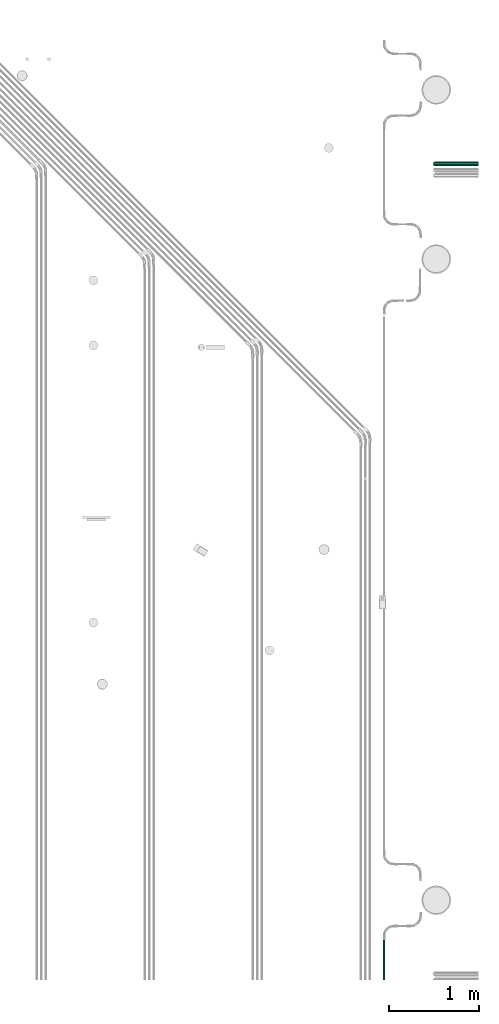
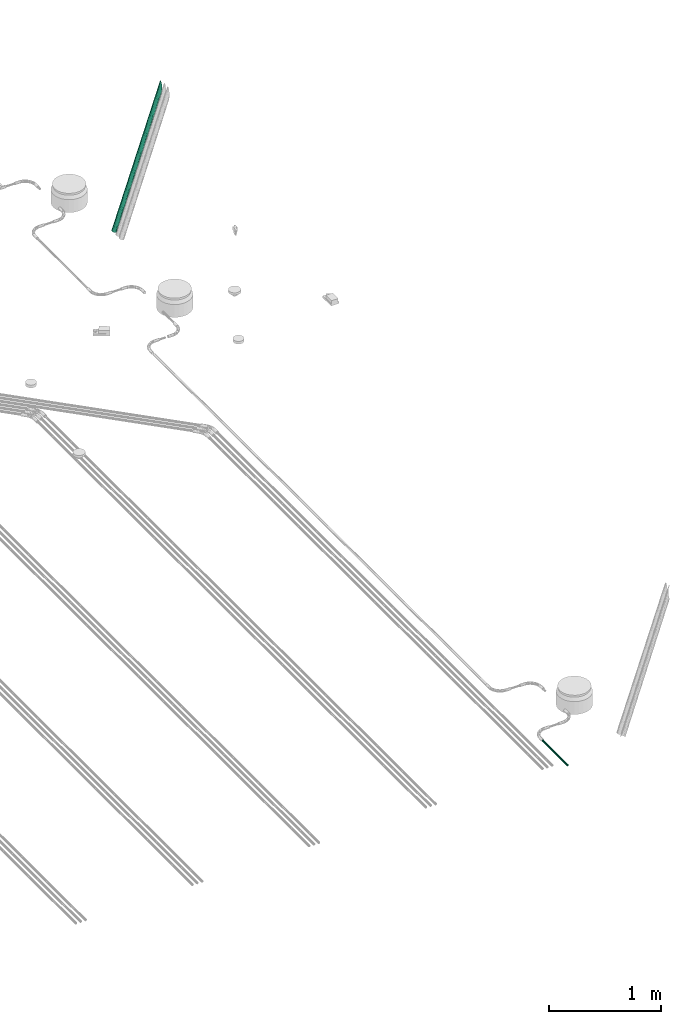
# One storey, part 47 of 51: 2 flow segments.
"""IFC2X3 building model written with IfcOpenShell, lengths in millimetres."""

from ifc_helpers import new_model, entity, si_unit, converted_unit, derived_unit, direction, frame, place, context, subcontext, project, spatial, faceted_brep, type_object, element, save


model = new_model("IFC2X3")

# Units and contexts
model_context = context("Model", 3, precision=0.01, world=frame((0.0, 4.29681676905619e-09, 0.0)), true_north=direction((4.01073788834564e-13, 1.0)))
plan_context = context("Plan", 3, precision=0.01, world=frame((0.0, 4.29681676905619e-09, 0.0)), true_north=direction((4.01073788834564e-13, 1.0)))
body_context = subcontext(model_context, "Body", "Model", "MODEL_VIEW")
ifc_project = project(units=[converted_unit("PLANEANGLEUNIT", "DEGREE", entity("IfcPositiveLengthMeasure", 0.0174532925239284), si_unit("PLANEANGLEUNIT", "RADIAN"), dimensions=[0, 0, 0, 0, 0, 0, 0]), si_unit("AREAUNIT", "SQUARE_METRE"), si_unit("LENGTHUNIT", "METRE", prefix="MILLI"), si_unit("MASSUNIT", "GRAM", prefix="KILO"), si_unit("POWERUNIT", "WATT"), si_unit("PRESSUREUNIT", "PASCAL"), si_unit("FORCEUNIT", "NEWTON", prefix="KILO"), si_unit("ELECTRICVOLTAGEUNIT", "VOLT"), si_unit("ELECTRICCURRENTUNIT", "AMPERE"), si_unit("THERMODYNAMICTEMPERATUREUNIT", "DEGREE_CELSIUS"), si_unit("TIMEUNIT", "SECOND"), si_unit("VOLUMEUNIT", "CUBIC_METRE"), derived_unit("LINEARVELOCITYUNIT", [(si_unit("LENGTHUNIT", "METRE"), 1), (si_unit("TIMEUNIT", "SECOND"), -1)]), derived_unit("VOLUMETRICFLOWRATEUNIT", [(si_unit("VOLUMEUNIT", "CUBIC_METRE"), 1), (si_unit("TIMEUNIT", "SECOND"), -1)]), derived_unit("THERMALTRANSMITTANCEUNIT", [(si_unit("POWERUNIT", "WATT"), 1), (si_unit("THERMODYNAMICTEMPERATUREUNIT", "KELVIN"), -1), (si_unit("AREAUNIT", "SQUARE_METRE"), -1)]), derived_unit("SOUNDPRESSUREUNIT", [(si_unit("PRESSUREUNIT", "PASCAL"), 1)])], contexts=[model_context, plan_context])

# Site, building, storey
site_placement = place(None, frame((0.0, -4.29681676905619e-09, 0.0), z_axis=(0.0, 0.0, 1.0), x_axis=(1.0, 0.0, 0.0)))
site = spatial("IfcSite", under=ifc_project, at=site_placement, Name="ENGM", CompositionType="ELEMENT")
building_placement = place(site_placement, frame((0.0, 4.29681676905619e-09, 0.0), z_axis=(0.0, 0.0, 1.0), x_axis=(1.0, 0.0, 0.0)))
building = spatial("IfcBuilding", under=site, at=building_placement, Name="TI", CompositionType="ELEMENT")
storey_placement = place(building_placement, frame((0.0, 0.0, 210900.0), z_axis=(0.0, 0.0, 1.0), x_axis=(1.0, 0.0, 0.0)))
storey = spatial("IfcBuildingStorey", under=building, at=storey_placement, Name="Nivå F", CompositionType="ELEMENT", Elevation=210900.0)

# Flow segments
cable_carrier_segment_type_1 = type_object("IfcCableCarrierSegmentType", Name="Trekkerør, korrugert", PredefinedType="CONDUITSEGMENT")
flow_segment_1_placement = place(storey_placement, frame((611382.66348, 688547.83675, -110.0), z_axis=(0.0, 0.0, 1.0), x_axis=(0.0, 1.0, 0.0)))
element("IfcFlowSegment", 1, at=flow_segment_1_placement, inside=storey, type_object=cable_carrier_segment_type_1, Name="Trekkerør, korrugert", context=body_context, shape_type="Brep", body=[
    faceted_brep([(452.163249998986, 7.87846202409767, -1.38918542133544), (452.163249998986, 8.0, 0.0), (897.5, 8.0, 0.0), (897.5, 7.87846202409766, -1.38918542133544), (452.163249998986, 7.51754096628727, -2.73616114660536), (897.5, 7.51754096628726, -2.73616114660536), (452.163249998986, 6.92820323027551, -4.0), (897.5, 6.92820323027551, -4.0), (452.163249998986, 6.12835554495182, -5.14230087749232), (897.5, 6.12835554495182, -5.14230087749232), (452.163249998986, 5.14230087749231, -6.12835554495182), (897.5, 5.14230087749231, -6.12835554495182), (452.163249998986, 4.0, -6.92820323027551), (897.5, 4.0, -6.92820323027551), (452.163249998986, 2.73616114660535, -7.51754096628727), (897.5, 2.73616114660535, -7.51754096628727), (452.163249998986, 1.38918542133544, -7.87846202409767), (897.5, 1.38918542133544, -7.87846202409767), (452.163249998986, -1.46957615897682e-15, -8.0), (897.5, -1.46957615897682e-15, -8.0), (452.163249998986, -1.38918542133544, -7.87846202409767), (897.5, -1.38918542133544, -7.87846202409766), (452.163249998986, -2.73616114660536, -7.51754096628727), (897.5, -2.73616114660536, -7.51754096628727), (452.163249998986, -4.0, -6.92820323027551), (897.5, -4.0, -6.92820323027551), (452.163249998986, -5.14230087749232, -6.12835554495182), (897.5, -5.14230087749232, -6.12835554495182), (452.163249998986, -6.12835554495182, -5.14230087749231), (897.5, -6.12835554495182, -5.14230087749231), (452.163249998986, -6.92820323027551, -4.0), (897.5, -6.92820323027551, -4.0), (452.163249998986, -7.51754096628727, -2.73616114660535), (897.5, -7.51754096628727, -2.73616114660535), (452.163249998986, -7.87846202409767, -1.38918542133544), (897.5, -7.87846202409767, -1.38918542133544), (452.163249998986, -8.0, 9.79717439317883e-16), (897.5, -8.0, 9.79717439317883e-16), (452.163249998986, -7.87846202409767, 1.38918542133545), (897.5, -7.87846202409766, 1.38918542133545), (452.163249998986, -7.51754096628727, 2.73616114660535), (897.5, -7.51754096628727, 2.73616114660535), (452.163249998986, -6.92820323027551, 4.0), (897.5, -6.92820323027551, 4.0), (452.163249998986, -6.12835554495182, 5.14230087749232), (897.5, -6.12835554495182, 5.14230087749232), (452.163249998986, -5.14230087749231, 6.12835554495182), (897.5, -5.14230087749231, 6.12835554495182), (452.163249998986, -4.0, 6.92820323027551), (897.5, -4.0, 6.92820323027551), (452.163249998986, -2.73616114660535, 7.51754096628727), (897.5, -2.73616114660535, 7.51754096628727), (452.163249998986, -1.38918542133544, 7.87846202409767), (897.5, -1.38918542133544, 7.87846202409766), (452.163249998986, 4.89858719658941e-16, 8.0), (897.5, 4.89858719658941e-16, 8.0), (452.163249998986, 1.38918542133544, 7.87846202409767), (897.5, 1.38918542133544, 7.87846202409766), (452.163249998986, 2.73616114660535, 7.51754096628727), (897.5, 2.73616114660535, 7.51754096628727), (452.163249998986, 4.0, 6.92820323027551), (897.5, 4.0, 6.92820323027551), (452.163249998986, 5.14230087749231, 6.12835554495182), (897.5, 5.14230087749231, 6.12835554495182), (452.163249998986, 6.12835554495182, 5.14230087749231), (897.5, 6.12835554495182, 5.14230087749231), (452.163249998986, 6.92820323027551, 4.0), (897.5, 6.92820323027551, 4.0), (452.163249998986, 7.51754096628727, 2.73616114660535), (897.5, 7.51754096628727, 2.73616114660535), (452.163249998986, 7.87846202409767, 1.38918542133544), (897.5, 7.87846202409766, 1.38918542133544), (452.163249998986, 10.0, 0.0), (452.163249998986, 9.84807753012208, -1.7364817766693), (897.5, 9.84807753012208, -1.7364817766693), (897.5, 10.0, 0.0), (452.163249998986, 9.84807753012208, 1.7364817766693), (897.5, 9.84807753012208, 1.7364817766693), (452.163249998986, 9.39692620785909, 3.42020143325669), (897.5, 9.39692620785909, 3.42020143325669), (452.163249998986, 8.66025403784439, 5.0), (897.5, 8.66025403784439, 5.0), (452.163249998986, 7.66044443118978, 6.42787609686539), (897.5, 7.66044443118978, 6.42787609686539), (452.163249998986, 6.42787609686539, 7.66044443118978), (897.5, 6.42787609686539, 7.66044443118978), (452.163249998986, 5.0, 8.66025403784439), (897.5, 5.0, 8.66025403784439), (452.163249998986, 3.42020143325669, 9.39692620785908), (897.5, 3.42020143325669, 9.39692620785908), (452.163249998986, 1.7364817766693, 9.84807753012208), (897.5, 1.7364817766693, 9.84807753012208), (452.163249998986, 6.12323399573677e-16, 10.0), (897.5, 6.12323399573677e-16, 10.0), (452.163249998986, -1.7364817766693, 9.84807753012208), (897.5, -1.7364817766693, 9.84807753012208), (452.163249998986, -3.42020143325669, 9.39692620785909), (897.5, -3.42020143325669, 9.39692620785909), (452.163249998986, -5.0, 8.66025403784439), (897.5, -5.0, 8.66025403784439), (452.163249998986, -6.42787609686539, 7.66044443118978), (897.5, -6.42787609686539, 7.66044443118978), (452.163249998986, -7.66044443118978, 6.4278760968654), (897.5, -7.66044443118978, 6.4278760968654), (452.163249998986, -8.66025403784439, 5.0), (897.5, -8.66025403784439, 5.0), (452.163249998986, -9.39692620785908, 3.42020143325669), (897.5, -9.39692620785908, 3.42020143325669), (452.163249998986, -9.84807753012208, 1.73648177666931), (897.5, -9.84807753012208, 1.73648177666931), (452.163249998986, -10.0, 1.22464679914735e-15), (897.5, -10.0, 1.22464679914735e-15), (452.163249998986, -9.84807753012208, -1.7364817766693), (897.5, -9.84807753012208, -1.7364817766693), (452.163249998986, -9.39692620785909, -3.42020143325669), (897.5, -9.39692620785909, -3.42020143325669), (452.163249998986, -8.66025403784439, -5.0), (897.5, -8.66025403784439, -5.0), (452.163249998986, -7.66044443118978, -6.42787609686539), (897.5, -7.66044443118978, -6.42787609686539), (452.163249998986, -6.4278760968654, -7.66044443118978), (897.5, -6.4278760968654, -7.66044443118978), (452.163249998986, -5.00000000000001, -8.66025403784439), (897.5, -5.0, -8.66025403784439), (452.163249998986, -3.42020143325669, -9.39692620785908), (897.5, -3.42020143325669, -9.39692620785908), (452.163249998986, -1.7364817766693, -9.84807753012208), (897.5, -1.7364817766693, -9.84807753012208), (452.163249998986, -1.83697019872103e-15, -10.0), (897.5, -1.83697019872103e-15, -10.0), (452.163249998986, 1.7364817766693, -9.84807753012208), (897.5, 1.7364817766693, -9.84807753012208), (452.163249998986, 3.42020143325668, -9.39692620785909), (897.5, 3.42020143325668, -9.39692620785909), (452.163249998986, 5.0, -8.66025403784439), (897.5, 5.0, -8.66025403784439), (452.163249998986, 6.42787609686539, -7.66044443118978), (897.5, 6.42787609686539, -7.66044443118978), (452.163249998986, 7.66044443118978, -6.4278760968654), (897.5, 7.66044443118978, -6.4278760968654), (452.163249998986, 8.66025403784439, -5.00000000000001), (897.5, 8.66025403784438, -5.0), (452.163249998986, 9.39692620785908, -3.42020143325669), (897.5, 9.39692620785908, -3.42020143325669)], [[[0, 1, 2, 3]], [[4, 0, 3, 5]], [[6, 4, 5, 7]], [[8, 6, 7, 9]], [[10, 8, 9, 11]], [[12, 10, 11, 13]], [[14, 12, 13, 15]], [[16, 14, 15, 17]], [[18, 16, 17, 19]], [[20, 18, 19, 21]], [[22, 20, 21, 23]], [[24, 22, 23, 25]], [[26, 24, 25, 27]], [[28, 26, 27, 29]], [[30, 28, 29, 31]], [[32, 30, 31, 33]], [[34, 32, 33, 35]], [[36, 34, 35, 37]], [[38, 36, 37, 39]], [[40, 38, 39, 41]], [[42, 40, 41, 43]], [[44, 42, 43, 45]], [[46, 44, 45, 47]], [[48, 46, 47, 49]], [[50, 48, 49, 51]], [[52, 50, 51, 53]], [[54, 52, 53, 55]], [[56, 54, 55, 57]], [[58, 56, 57, 59]], [[60, 58, 59, 61]], [[62, 60, 61, 63]], [[64, 62, 63, 65]], [[66, 64, 65, 67]], [[68, 66, 67, 69]], [[70, 68, 69, 71]], [[1, 70, 71, 2]], [[72, 73, 74, 75]], [[76, 72, 75, 77]], [[78, 76, 77, 79]], [[80, 78, 79, 81]], [[82, 80, 81, 83]], [[84, 82, 83, 85]], [[86, 84, 85, 87]], [[88, 86, 87, 89]], [[90, 88, 89, 91]], [[92, 90, 91, 93]], [[94, 92, 93, 95]], [[96, 94, 95, 97]], [[98, 96, 97, 99]], [[100, 98, 99, 101]], [[102, 100, 101, 103]], [[104, 102, 103, 105]], [[106, 104, 105, 107]], [[108, 106, 107, 109]], [[110, 108, 109, 111]], [[112, 110, 111, 113]], [[114, 112, 113, 115]], [[116, 114, 115, 117]], [[118, 116, 117, 119]], [[120, 118, 119, 121]], [[122, 120, 121, 123]], [[124, 122, 123, 125]], [[126, 124, 125, 127]], [[128, 126, 127, 129]], [[130, 128, 129, 131]], [[132, 130, 131, 133]], [[134, 132, 133, 135]], [[136, 134, 135, 137]], [[138, 136, 137, 139]], [[140, 138, 139, 141]], [[142, 140, 141, 143]], [[73, 142, 143, 74]], [[75, 74, 143, 141, 139, 137, 135, 133, 131, 129, 127, 125, 123, 121, 119, 117, 115, 113, 111, 109, 107, 105, 103, 101, 99, 97, 95, 93, 91, 89, 87, 85, 83, 81, 79, 77], [2, 71, 69, 67, 65, 63, 61, 59, 57, 55, 53, 51, 49, 47, 45, 43, 41, 39, 37, 35, 33, 31, 29, 27, 25, 23, 21, 19, 17, 15, 13, 11, 9, 7, 5, 3]], [[76, 78, 80, 82, 84, 86, 88, 90, 92, 94, 96, 98, 100, 102, 104, 106, 108, 110, 112, 114, 116, 118, 120, 122, 124, 126, 128, 130, 132, 134, 136, 138, 140, 142, 73, 72], [4, 6, 8, 10, 12, 14, 16, 18, 20, 22, 24, 26, 28, 30, 32, 34, 36, 38, 40, 42, 44, 46, 48, 50, 52, 54, 56, 58, 60, 62, 64, 66, 68, 70, 1, 0]]], orient=[[False], [False], [False], [False], [False], [False], [False], [False], [False], [False], [False], [False], [False], [False], [False], [False], [False], [False], [False], [False], [False], [False], [False], [False], [False], [False], [False], [False], [False], [False], [False], [False], [False], [False], [False], [False], [False], [False], [False], [False], [False], [False], [False], [False], [False], [False], [False], [False], [False], [False], [False], [False], [False], [False], [False], [False], [False], [False], [False], [False], [False], [False], [False], [False], [False], [False], [False], [False], [False], [False], [False], [False], [False, False], [False, False]]),
])
cable_carrier_segment_type_2 = type_object("IfcCableCarrierSegmentType", Name="Trekkerør, glatt", PredefinedType="CONDUITSEGMENT")
flow_segment_2_placement = place(storey_placement, frame((611951.30791, 698065.0002, 0.0), z_axis=(-0.945719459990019, 0.0, 0.324984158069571), x_axis=(0.324984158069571, 0.0, 0.945719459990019)))
element("IfcFlowSegment", 2, at=flow_segment_2_placement, inside=storey, type_object=cable_carrier_segment_type_2, Name="Trekkerør, glatt", context=body_context, shape_type="Brep", body=[
    faceted_brep([(1472.96973149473, 23.0, 0.0), (1461.34726773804, 22.6505783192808, -3.9939080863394), (0.0, 22.6505783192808, -3.9939080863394), (0.0, 23.0, 0.0), (1450.07794666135, 21.6129302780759, -7.8664632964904), (0.0, 21.6129302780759, -7.8664632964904), (1439.50418088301, 19.9185842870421, -11.5), (0.0, 19.9185842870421, -11.5), (1429.94724892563, 17.6190221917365, -14.7841150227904), (0.0, 17.6190221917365, -14.7841150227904), (1421.69753333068, 14.7841150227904, -17.6190221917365), (0.0, 14.7841150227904, -17.6190221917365), (1415.00569753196, 11.5, -19.9185842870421), (0.0, 11.5, -19.9185842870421), (1410.07506957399, 7.86646329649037, -21.6129302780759), (0.0, 7.86646329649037, -21.6129302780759), (1407.05546409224, 3.99390808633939, -22.6505783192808), (0.0, 3.99390808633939, -22.6505783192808), (1406.03863027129, -4.22503145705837e-15, -23.0), (0.0, -4.22503145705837e-15, -23.0), (1407.05546409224, -3.9939080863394, -22.6505783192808), (0.0, -3.9939080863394, -22.6505783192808), (1410.07506957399, -7.8664632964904, -21.6129302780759), (0.0, -7.8664632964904, -21.6129302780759), (1415.00569753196, -11.5, -19.9185842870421), (0.0, -11.5, -19.9185842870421), (1421.69753333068, -14.7841150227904, -17.6190221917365), (0.0, -14.7841150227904, -17.6190221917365), (1429.94724892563, -17.6190221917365, -14.7841150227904), (0.0, -17.6190221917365, -14.7841150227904), (1439.50418088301, -19.9185842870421, -11.5), (0.0, -19.9185842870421, -11.5), (1450.07794666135, -21.6129302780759, -7.86646329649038), (0.0, -21.6129302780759, -7.86646329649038), (1461.34726773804, -22.6505783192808, -3.99390808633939), (0.0, -22.6505783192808, -3.99390808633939), (1472.96973149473, -23.0, 2.81668763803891e-15), (0.0, -23.0, 2.81668763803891e-15), (1484.59219525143, -22.6505783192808, 3.99390808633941), (0.0, -22.6505783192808, 3.99390808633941), (1495.86151632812, -21.6129302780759, 7.86646329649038), (0.0, -21.6129302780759, 7.86646329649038), (1506.43528210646, -19.9185842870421, 11.5), (0.0, -19.9185842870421, 11.5), (1515.99221406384, -17.6190221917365, 14.7841150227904), (0.0, -17.6190221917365, 14.7841150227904), (1524.24192965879, -14.7841150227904, 17.6190221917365), (0.0, -14.7841150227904, 17.6190221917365), (1530.9337654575, -11.5, 19.9185842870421), (0.0, -11.5, 19.9185842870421), (1535.86439341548, -7.86646329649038, 21.6129302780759), (0.0, -7.86646329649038, 21.6129302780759), (1538.88399889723, -3.9939080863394, 22.6505783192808), (0.0, -3.9939080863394, 22.6505783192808), (1539.90083271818, 1.40834381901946e-15, 23.0), (0.0, 1.40834381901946e-15, 23.0), (1538.88399889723, 3.9939080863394, 22.6505783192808), (0.0, 3.9939080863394, 22.6505783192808), (1535.86439341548, 7.86646329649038, 21.6129302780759), (0.0, 7.86646329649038, 21.6129302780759), (1530.9337654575, 11.5, 19.9185842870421), (0.0, 11.5, 19.9185842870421), (1524.24192965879, 14.7841150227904, 17.6190221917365), (0.0, 14.7841150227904, 17.6190221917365), (1515.99221406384, 17.6190221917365, 14.7841150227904), (0.0, 17.6190221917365, 14.7841150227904), (1506.43528210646, 19.9185842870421, 11.5), (0.0, 19.9185842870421, 11.5), (1495.86151632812, 21.6129302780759, 7.86646329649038), (0.0, 21.6129302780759, 7.86646329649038), (1484.59219525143, 22.6505783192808, 3.9939080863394), (0.0, 22.6505783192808, 3.9939080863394), (1460.33661871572, 24.6201938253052, -4.34120444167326), (1472.96973149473, 25.0, 0.0), (0.0, 25.0, 0.0), (0.0, 24.6201938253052, -4.34120444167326), (1485.60284427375, 24.6201938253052, 4.34120444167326), (0.0, 24.6201938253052, 4.34120444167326), (1497.85210631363, 23.4923155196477, 8.55050358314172), (0.0, 23.4923155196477, 8.55050358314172), (1509.34532998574, 21.650635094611, 12.5), (0.0, 21.650635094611, 12.5), (1519.73329950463, 19.1511110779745, 16.0696902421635), (0.0, 19.1511110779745, 16.0696902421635), (1528.70038167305, 16.0696902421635, 19.1511110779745), (0.0, 16.0696902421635, 19.1511110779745), (1535.97411623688, 12.5, 21.650635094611), (0.0, 12.5, 21.650635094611), (1541.33349445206, 8.55050358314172, 23.4923155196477), (0.0, 8.55050358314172, 23.4923155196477), (1544.61567432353, 4.34120444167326, 24.6201938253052), (0.0, 4.34120444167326, 24.6201938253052), (1545.72092847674, 1.53080849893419e-15, 25.0), (0.0, 1.53080849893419e-15, 25.0), (1544.61567432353, -4.34120444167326, 24.6201938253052), (0.0, -4.34120444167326, 24.6201938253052), (1541.33349445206, -8.55050358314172, 23.4923155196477), (0.0, -8.55050358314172, 23.4923155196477), (1535.97411623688, -12.5, 21.650635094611), (0.0, -12.5, 21.650635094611), (1528.70038167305, -16.0696902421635, 19.1511110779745), (0.0, -16.0696902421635, 19.1511110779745), (1519.73329950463, -19.1511110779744, 16.0696902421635), (0.0, -19.1511110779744, 16.0696902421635), (1509.34532998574, -21.650635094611, 12.5), (0.0, -21.650635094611, 12.5), (1497.85210631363, -23.4923155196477, 8.55050358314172), (0.0, -23.4923155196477, 8.55050358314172), (1485.60284427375, -24.6201938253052, 4.34120444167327), (0.0, -24.6201938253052, 4.34120444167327), (1472.96973149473, -25.0, 3.06161699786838e-15), (0.0, -25.0, 3.06161699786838e-15), (1460.33661871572, -24.6201938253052, -4.34120444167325), (0.0, -24.6201938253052, -4.34120444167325), (1448.08735667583, -23.4923155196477, -8.55050358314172), (0.0, -23.4923155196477, -8.55050358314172), (1436.59413300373, -21.650635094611, -12.5), (0.0, -21.650635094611, -12.5), (1426.20616348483, -19.1511110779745, -16.0696902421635), (0.0, -19.1511110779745, -16.0696902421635), (1417.23908131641, -16.0696902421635, -19.1511110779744), (0.0, -16.0696902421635, -19.1511110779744), (1409.96534675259, -12.5, -21.650635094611), (0.0, -12.5, -21.650635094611), (1404.6059685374, -8.55050358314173, -23.4923155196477), (0.0, -8.55050358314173, -23.4923155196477), (1401.32378866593, -4.34120444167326, -24.6201938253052), (0.0, -4.34120444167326, -24.6201938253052), (1400.21853451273, -4.59242549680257e-15, -25.0), (0.0, -4.59242549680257e-15, -25.0), (1401.32378866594, 4.34120444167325, -24.6201938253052), (0.0, 4.34120444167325, -24.6201938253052), (1404.6059685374, 8.5505035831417, -23.4923155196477), (0.0, 8.5505035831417, -23.4923155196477), (1409.96534675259, 12.5, -21.650635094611), (0.0, 12.5, -21.650635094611), (1417.23908131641, 16.0696902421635, -19.1511110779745), (0.0, 16.0696902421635, -19.1511110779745), (1426.20616348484, 19.1511110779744, -16.0696902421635), (0.0, 19.1511110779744, -16.0696902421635), (1436.59413300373, 21.650635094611, -12.5), (0.0, 21.650635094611, -12.5), (1448.08735667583, 23.4923155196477, -8.55050358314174), (0.0, 23.4923155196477, -8.55050358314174)], [[[0, 1, 2, 3]], [[1, 4, 5, 2]], [[4, 6, 7, 5]], [[6, 8, 9, 7]], [[8, 10, 11, 9]], [[10, 12, 13, 11]], [[12, 14, 15, 13]], [[14, 16, 17, 15]], [[16, 18, 19, 17]], [[18, 20, 21, 19]], [[20, 22, 23, 21]], [[22, 24, 25, 23]], [[24, 26, 27, 25]], [[26, 28, 29, 27]], [[28, 30, 31, 29]], [[30, 32, 33, 31]], [[32, 34, 35, 33]], [[34, 36, 37, 35]], [[36, 38, 39, 37]], [[38, 40, 41, 39]], [[40, 42, 43, 41]], [[42, 44, 45, 43]], [[44, 46, 47, 45]], [[46, 48, 49, 47]], [[48, 50, 51, 49]], [[50, 52, 53, 51]], [[52, 54, 55, 53]], [[54, 56, 57, 55]], [[56, 58, 59, 57]], [[58, 60, 61, 59]], [[60, 62, 63, 61]], [[62, 64, 65, 63]], [[64, 66, 67, 65]], [[66, 68, 69, 67]], [[68, 70, 71, 69]], [[70, 0, 3, 71]], [[72, 73, 74, 75]], [[73, 76, 77, 74]], [[76, 78, 79, 77]], [[78, 80, 81, 79]], [[80, 82, 83, 81]], [[82, 84, 85, 83]], [[84, 86, 87, 85]], [[86, 88, 89, 87]], [[88, 90, 91, 89]], [[90, 92, 93, 91]], [[92, 94, 95, 93]], [[94, 96, 97, 95]], [[96, 98, 99, 97]], [[98, 100, 101, 99]], [[100, 102, 103, 101]], [[102, 104, 105, 103]], [[104, 106, 107, 105]], [[106, 108, 109, 107]], [[108, 110, 111, 109]], [[110, 112, 113, 111]], [[112, 114, 115, 113]], [[114, 116, 117, 115]], [[116, 118, 119, 117]], [[118, 120, 121, 119]], [[120, 122, 123, 121]], [[122, 124, 125, 123]], [[124, 126, 127, 125]], [[126, 128, 129, 127]], [[128, 130, 131, 129]], [[130, 132, 133, 131]], [[132, 134, 135, 133]], [[134, 136, 137, 135]], [[136, 138, 139, 137]], [[138, 140, 141, 139]], [[140, 142, 143, 141]], [[142, 72, 75, 143]], [[75, 74, 77, 79, 81, 83, 85, 87, 89, 91, 93, 95, 97, 99, 101, 103, 105, 107, 109, 111, 113, 115, 117, 119, 121, 123, 125, 127, 129, 131, 133, 135, 137, 139, 141, 143], [3, 2, 5, 7, 9, 11, 13, 15, 17, 19, 21, 23, 25, 27, 29, 31, 33, 35, 37, 39, 41, 43, 45, 47, 49, 51, 53, 55, 57, 59, 61, 63, 65, 67, 69, 71]], [[142, 140, 138, 136, 134, 132, 130, 128, 126, 124, 122, 120, 118, 116, 114, 112, 110, 108, 106, 104, 102, 100, 98, 96, 94, 92, 90, 88, 86, 84, 82, 80, 78, 76, 73, 72], [70, 68, 66, 64, 62, 60, 58, 56, 54, 52, 50, 48, 46, 44, 42, 40, 38, 36, 34, 32, 30, 28, 26, 24, 22, 20, 18, 16, 14, 12, 10, 8, 6, 4, 1, 0]]], orient=[[False], [False], [False], [False], [False], [False], [False], [False], [False], [False], [False], [False], [False], [False], [False], [False], [False], [False], [False], [False], [False], [False], [False], [False], [False], [False], [False], [False], [False], [False], [False], [False], [False], [False], [False], [False], [False], [False], [False], [False], [False], [False], [False], [False], [False], [False], [False], [False], [False], [False], [False], [False], [False], [False], [False], [False], [False], [False], [False], [False], [False], [False], [False], [False], [False], [False], [False], [False], [False], [False], [False], [False], [False, False], [False, False]]),
])

save(model, "model.ifc")
